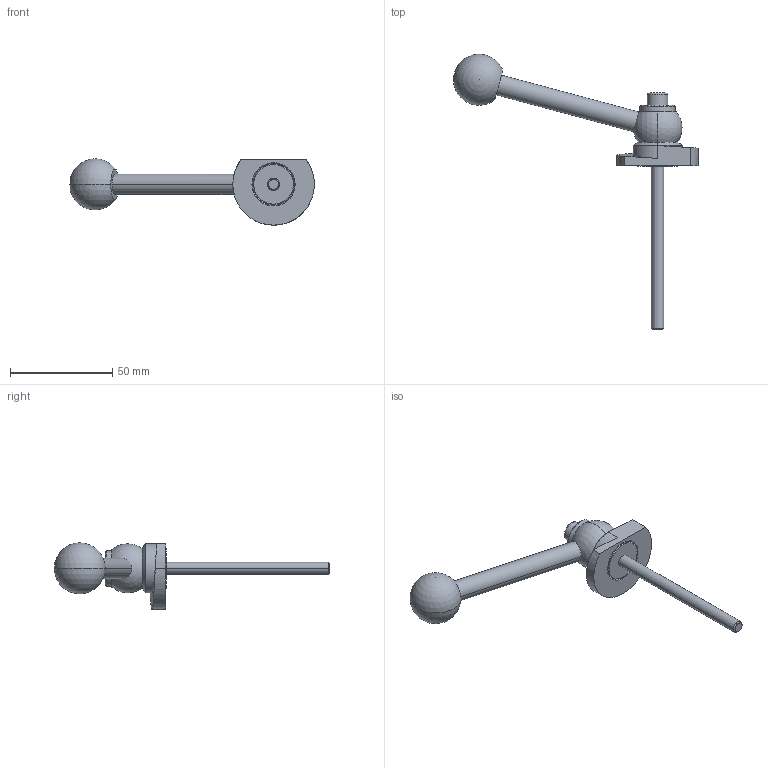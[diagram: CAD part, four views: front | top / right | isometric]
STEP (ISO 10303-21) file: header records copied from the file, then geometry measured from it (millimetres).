
FILE_DESCRIPTION (( 'STEP AP214' ), '1' );
FILE_NAME ('918.1-40-KVS-L-80.step', '2024-05-15T13:00:16', ( '' ), ( '' ), 'SwSTEP 2.0', 'SolidWorks 2022', '' );
FILE_SCHEMA (( 'AUTOMOTIVE_DESIGN' ));
Length unit declared in the file: millimetre
Products named in the file (1): 918.1-40-KVS-L-80
Bounding box: 119.95 x 134.99 x 32.5 mm (x, y, z)
Volume: 32012.2 mm3; surface area: 12344 mm2
Topology: 1 solids, 1 shells, 62 faces, 141 edges, 89 vertices
Faces by surface type: plane 20, cylinder 19, cone 14, sphere 4, bspline 3, torus 2
Entity records: 2003 total; most frequent: CARTESIAN_POINT 614, DIRECTION 304, ORIENTED_EDGE 262, EDGE_CURVE 131, AXIS2_PLACEMENT_3D 125, VERTEX_POINT 83, EDGE_LOOP 74, CIRCLE 65
